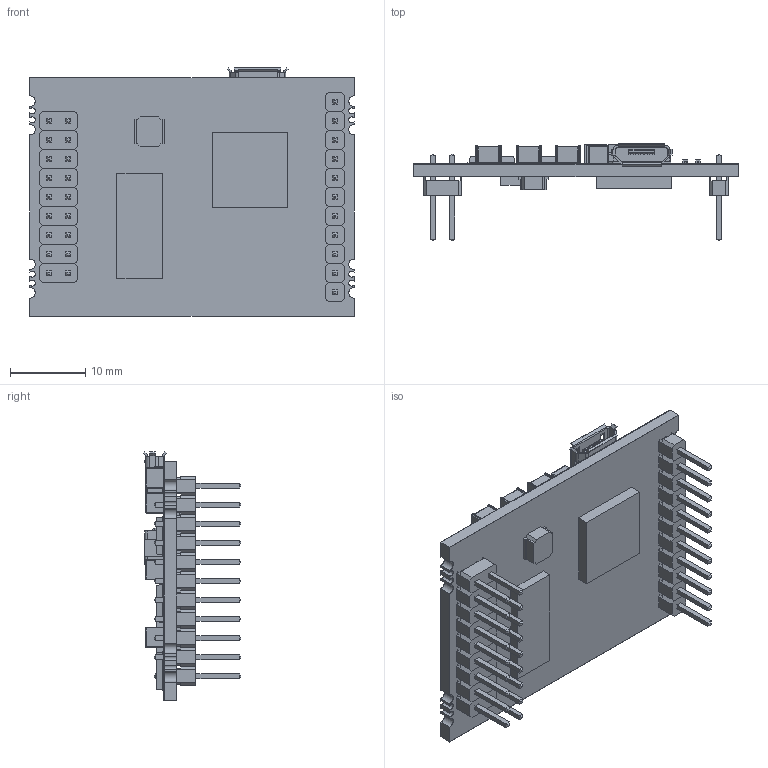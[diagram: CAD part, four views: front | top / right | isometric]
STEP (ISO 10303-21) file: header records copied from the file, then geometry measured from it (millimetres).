
FILE_DESCRIPTION((''),'2;1');
FILE_NAME('ESCON_50-5_MODULE_ASM','2013-09-13T',('mmagmma'),(''),'PRO/ENGINEER BY PARAMETRIC TECHNOLOGY CORPORATION, 2012010','PRO/ENGINEER BY PARAMETRIC TECHNOLOGY CORPORATION, 2012010','');
FILE_SCHEMA(('CONFIG_CONTROL_DESIGN','SHAPE_APPEARANCE_LAYERS_GROUPS'));
Products named in the file (24): ESCON_50-5_MODULE_PCB; CAP_C3225; USB_MICRO; MOSFET_TDSON-8; IC_7X7X1; DROSSEL_4X4X1-8; IC_PDSO_G56; IC_LQFP64-10X10; ESCON_50-5_MODULE_PCB_SILK; ESCON_50-5_MODULE_PCB_SILK-BOT; STIFTLEISTE_2X1_K; STIFTLEISTE_STIFT; STIFTLEISTE_2X1_ASM; STIFTLEISTE_1X1_K; STIFTLEISTE_1X1_ASM; LED_BASE; LED_GREEN; LED_0603_GREEN_ASM; LED_RED; LED_0603_RED_ASM; POTI_SMD_1; POTI_SMD_KNOPF; POTI_SMD_ASM; ESCON_50-5_MODULE_ASM
Assembly tree (58 placements, depth 3):
  ESCON_50-5_MODULE_ASM
    ESCON_50-5_MODULE_PCB
    CAP_C3225  x10
    USB_MICRO
    MOSFET_TDSON-8  x6
    IC_7X7X1
    DROSSEL_4X4X1-8
    IC_PDSO_G56
    IC_LQFP64-10X10
    ESCON_50-5_MODULE_PCB_SILK
    ESCON_50-5_MODULE_PCB_SILK-BOT
    STIFTLEISTE_2X1_ASM  x9
      STIFTLEISTE_2X1_K
      STIFTLEISTE_STIFT
    STIFTLEISTE_1X1_ASM  x11
      STIFTLEISTE_1X1_K
      STIFTLEISTE_STIFT
    LED_0603_GREEN_ASM
      LED_BASE
      LED_GREEN
    LED_0603_RED_ASM
      LED_BASE
      LED_RED
    POTI_SMD_ASM
      POTI_SMD_1
      POTI_SMD_KNOPF
Bounding box: 43.18 x 13 x 33.08 mm (x, y, z)
Volume: 3584.5 mm3; surface area: 12228.1 mm2
Topology: 97 solids, 97 shells, 4156 faces, 10872 edges, 6972 vertices
Faces by surface type: plane 3206, cylinder 782, sphere 88, bspline 80
Entity records: 109325 total; most frequent: CARTESIAN_POINT 15918, ORIENTED_EDGE 14464, DIRECTION 13384, PRESENTATION_STYLE_ASSIGNMENT 7610, STYLED_ITEM 7518, CURVE_STYLE 7232, EDGE_CURVE 7232, VECTOR 6316
